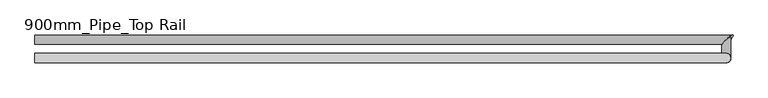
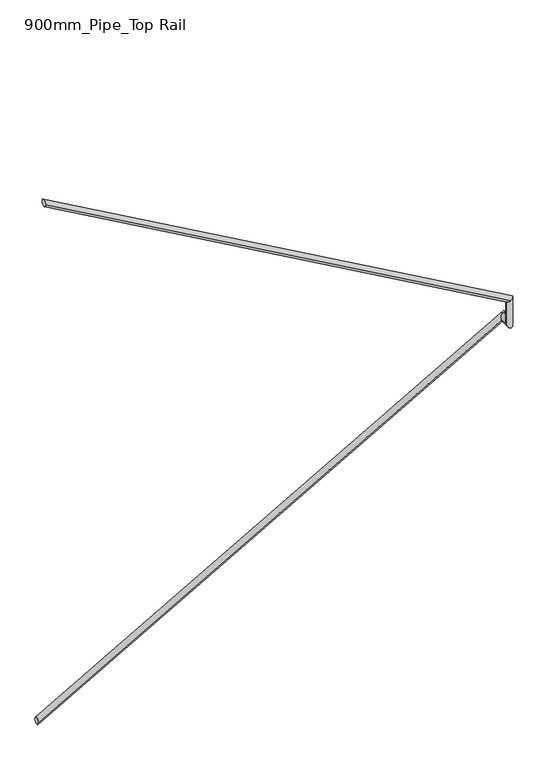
"""IFC4 building model written with IfcOpenShell, lengths in millimetres: railing geometry, 900mm_Pipe_Top Rail."""

from ifc_helpers import new_model, si_unit, frame, origin, place, context, project, spatial, ellipse_curve, source, transform, mapped, element, save
from ifc_brep_helpers import plane_surface, cylinder_surface, advanced_brep


def railing_900mm_pipe_top_rail_26344ec8(model_context):
    return source(origin(), model_context, "Body", "AdvancedBrep", [
        advanced_brep(
        [(-801.4958562, 12314.5395051, 16057.451671), (-801.4958562, 12354.5395051, 16057.451671), (2190.9952008, 12314.5395051, 17757.7306807), (2225.7734631, 12354.5395051, 17777.491057)],
        [
            (0, 1, ellipse_curve(frame((-801.4958562, 12334.5395051, 16057.451671), z_axis=(-1.0, 0.0, 0.0), x_axis=(0.0, 0.0, -1.0)), 23.0028744, 20.0)),
            (1, 0, ellipse_curve(frame((-801.4958562, 12334.5395051, 16057.451671), z_axis=(-1.0, 0.0, 0.0), x_axis=(0.0, 0.0, -1.0)), 23.0028744, 20.0)),
            (2, 3, ellipse_curve(frame((2208.3843319, 12334.5395051, 17767.6108689), z_axis=(0.6147986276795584, -0.7071067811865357, 0.34931740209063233), x_axis=(-0.6147986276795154, -0.7071067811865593, -0.34931740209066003)), 28.2842712, 20.0)),
            (3, 2, ellipse_curve(frame((2208.3843319, 12334.5395051, 17767.6108689), z_axis=(0.6147986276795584, -0.7071067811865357, 0.34931740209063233), x_axis=(-0.6147986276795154, -0.7071067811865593, -0.34931740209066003)), 28.2842712, 20.0)),
            (0, 2),
            (3, 1),
        ],
        [
            plane_surface(frame((-801.4958562, 12334.5395051, 16080.4545455), z_axis=(-1.0, 0.0, 0.0), x_axis=(0.0, 1.0, 0.0))),
            plane_surface(frame((2198.5041438, 12334.5395051, 17785.0), z_axis=(0.6147986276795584, -0.7071067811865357, 0.34931740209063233), x_axis=(0.7886841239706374, 0.5512070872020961, -0.2723014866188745))),
            cylinder_surface(frame((-791.6156681, 12334.5395051, 16063.0654143), z_axis=(-0.8694565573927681, 0.0, -0.4940094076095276), x_axis=(0.0, 1.0, 0.0)), 20.0),
        ],
        [
            (0, [[1, 2]]),
            (1, [[3, 4]]),
            (2, [[-1, 5, -4, 6]]),
            (2, [[-2, -6, -3, -5]]),
        ],
    ),
        advanced_brep(
        [(2178.9041438, 12307.2701858, 17765.0), (2218.9041438, 12342.0484481, 17765.0), (2178.9041438, 12254.2238126, 17765.0), (2218.9041438, 12254.2238126, 17765.0)],
        [
            (0, 1, ellipse_curve(frame((2198.9041438, 12324.6593169, 17765.0), z_axis=(-0.6147986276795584, 0.7071067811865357, -0.34931740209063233), x_axis=(0.6147986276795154, 0.7071067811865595, 0.3493174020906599)), 28.2842712, 20.0)),
            (1, 0, ellipse_curve(frame((2198.9041438, 12324.6593169, 17765.0), z_axis=(-0.6147986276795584, 0.7071067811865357, -0.34931740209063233), x_axis=(0.6147986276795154, 0.7071067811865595, 0.3493174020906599)), 28.2842712, 20.0)),
            (2, 3, ellipse_curve(frame((2198.9041438, 12254.2238126, 17765.0), z_axis=(0.0, -0.7071067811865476, 0.7071067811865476), x_axis=(0.0, 0.7071067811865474, 0.7071067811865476)), 28.2842712, 20.0)),
            (3, 2, ellipse_curve(frame((2198.9041438, 12254.2238126, 17765.0), z_axis=(0.0, -0.7071067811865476, 0.7071067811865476), x_axis=(0.0, 0.7071067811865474, 0.7071067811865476)), 28.2842712, 20.0)),
            (0, 2),
            (3, 1),
        ],
        [
            plane_surface(frame((2198.9041438, 12334.5395051, 17785.0), z_axis=(-0.6147986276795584, 0.7071067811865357, -0.34931740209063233), x_axis=(0.7886841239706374, 0.5512070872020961, -0.2723014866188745))),
            plane_surface(frame((2198.9041438, 12274.2238126, 17785.0), z_axis=(0.0, -0.7071067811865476, 0.7071067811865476), x_axis=(1.0, 0.0, 0.0))),
            cylinder_surface(frame((2198.9041438, 12334.5395051, 17765.0), z_axis=(0.0, 1.0, 0.0), x_axis=(1.0, 0.0, 0.0)), 20.0),
        ],
        [
            (0, [[1, 2]]),
            (1, [[3, 4]]),
            (2, [[-1, 5, -4, 6]]),
            (2, [[-2, -6, -3, -5]]),
        ],
    ),
        advanced_brep(
        [(2178.9041438, 12254.2238126, 17765.0), (2218.9041438, 12254.2238126, 17765.0), (2178.9041438, 12254.2238126, 17920.5851603), (2218.9041438, 12254.2238126, 17943.8636364)],
        [
            (0, 1, ellipse_curve(frame((2198.9041438, 12254.2238126, 17765.0), z_axis=(0.0, 0.7071067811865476, -0.7071067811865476), x_axis=(0.0, -0.7071067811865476, -0.7071067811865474)), 28.2842712, 20.0)),
            (1, 0, ellipse_curve(frame((2198.9041438, 12254.2238126, 17765.0), z_axis=(0.0, 0.7071067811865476, -0.7071067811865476), x_axis=(0.0, -0.7071067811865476, -0.7071067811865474)), 28.2842712, 20.0)),
            (2, 3, ellipse_curve(frame((2198.9041438, 12254.2238126, 17932.2243983), z_axis=(-0.5029863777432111, 0.0, 0.8642943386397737), x_axis=(-0.8642943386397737, 0.0, -0.502986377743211)), 23.140265, 20.0)),
            (3, 2, ellipse_curve(frame((2198.9041438, 12254.2238126, 17932.2243983), z_axis=(-0.5029863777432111, 0.0, 0.8642943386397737), x_axis=(-0.8642943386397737, 0.0, -0.502986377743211)), 23.140265, 20.0)),
            (0, 2),
            (3, 1),
        ],
        [
            plane_surface(frame((2198.9041438, 12254.2238126, 17765.0), z_axis=(0.0, 0.7071067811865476, -0.7071067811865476), x_axis=(1.0, 0.0, 0.0))),
            plane_surface(frame((2198.9041438, 12254.2238126, 17932.2243983), z_axis=(-0.5029863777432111, 0.0, 0.8642943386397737), x_axis=(0.8642943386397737, 0.0, 0.5029863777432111))),
            cylinder_surface(frame((2198.9041438, 12254.2238126, 17765.0), z_axis=(0.0, 0.0, -1.0), x_axis=(1.0, 0.0, 0.0)), 20.0),
        ],
        [
            (0, [[1, 2]]),
            (1, [[3, 4]]),
            (2, [[-1, 5, -4, 6]]),
            (2, [[-2, -6, -3, -5]]),
        ],
    ),
        advanced_brep(
        [(2198.9041438, 12274.2238126, 17932.2243983), (2198.9041438, 12234.2238126, 17932.2243983), (-801.4958562, 12274.2238126, 19636.9971256), (-801.4958562, 12234.2238126, 19636.9971256)],
        [
            (0, 1, ellipse_curve(frame((2198.9041438, 12254.2238126, 17932.2243983), z_axis=(0.5029863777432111, 0.0, -0.8642943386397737), x_axis=(0.8642943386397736, 0.0, 0.5029863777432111)), 23.140265, 20.0)),
            (1, 0, ellipse_curve(frame((2198.9041438, 12254.2238126, 17932.2243983), z_axis=(0.5029863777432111, 0.0, -0.8642943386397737), x_axis=(0.8642943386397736, 0.0, 0.5029863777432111)), 23.140265, 20.0)),
            (2, 3, ellipse_curve(frame((-801.4958562, 12254.2238126, 19636.9971256), z_axis=(-1.0, 0.0, 0.0), x_axis=(0.0, 0.0, -1.0)), 23.0028744, 20.0)),
            (3, 2, ellipse_curve(frame((-801.4958562, 12254.2238126, 19636.9971256), z_axis=(-1.0, 0.0, 0.0), x_axis=(0.0, 0.0, -1.0)), 23.0028744, 20.0)),
            (0, 2),
            (3, 1),
        ],
        [
            plane_surface(frame((2218.9041438, 12254.2238126, 17943.8636364), z_axis=(0.5029863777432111, 0.0, -0.8642943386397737), x_axis=(0.8642943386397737, 0.0, 0.5029863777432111))),
            plane_surface(frame((-801.4958562, 12254.2238126, 19660.0), z_axis=(-1.0, 0.0, 0.0), x_axis=(0.0, -1.0, 0.0))),
            cylinder_surface(frame((2209.0239556, 12254.2238126, 17926.4745052), z_axis=(0.8694565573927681, 0.0, -0.49400940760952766), x_axis=(0.0, -1.0, 0.0)), 20.0),
        ],
        [
            (0, [[1, 2]]),
            (1, [[3, 4]]),
            (2, [[-1, 5, -4, 6]]),
            (2, [[-2, -6, -3, -5]]),
        ],
    ),
    ])


if __name__ == "__main__":
    model = new_model("IFC4")
    model_context = context("Model", 3, world=origin())
    ifc_project = project(units=[si_unit("LENGTHUNIT", "METRE", prefix="MILLI")], contexts=[model_context])
    site = spatial("IfcSite", under=ifc_project)
    building = spatial("IfcBuilding", under=site)
    placement = place(None, origin())
    railing_900mm_pipe_top_rail_shape = railing_900mm_pipe_top_rail_26344ec8(model_context)
    element("IfcRailing", 1, ObjectType="900mm_Pipe_Top Rail", at=placement, inside=building, context=model_context, shape_type="MappedRepresentation", body=[
        mapped(railing_900mm_pipe_top_rail_shape, transform((0.0, 0.0, 0.0), x_axis=(1.0, 0.0, 0.0), y_axis=(0.0, 1.0, 0.0), z_axis=(0.0, 0.0, 1.0))),
    ])
    save(model, "model.ifc")
